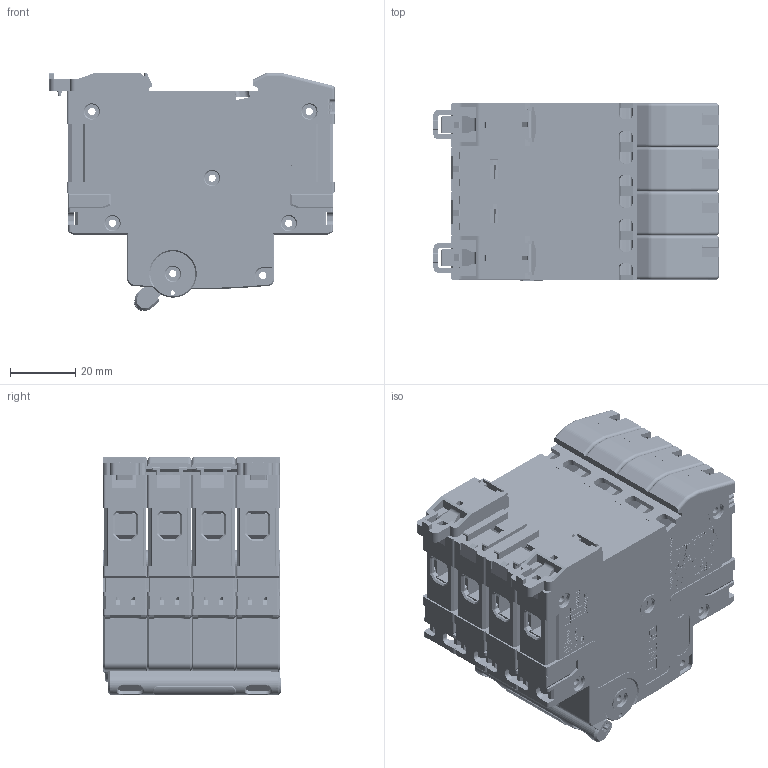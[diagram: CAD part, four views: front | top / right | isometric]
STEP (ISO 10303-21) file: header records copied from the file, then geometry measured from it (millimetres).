
FILE_DESCRIPTION((''),'2;1');
FILE_NAME('NB8-40J_4P2023070001_ASM','2023-07-19T15:50:39',('huchaow'),(''),'CREO PARAMETRIC BY PTC INC, 2020044','CREO PARAMETRIC BY PTC INC, 2020044','');
FILE_SCHEMA(('CONFIG_CONTROL_DESIGN','SHAPE_APPEARANCE_LAYERS_GROUPS'));
Products named in the file (1): NB8-40J_4P2023070001_ASM
Bounding box: 87.3 x 54.3 x 72.91 mm (x, y, z)
Surface area: 145678.7 mm2 (no closed solid volume)
Topology: 0 solids, 59 shells, 17257 faces, 47810 edges, 31560 vertices
Faces by surface type: plane 12478, cylinder 2448, extrusion 1620, cone 585, bspline 78, torus 44, sphere 4
Entity records: 753108 total; most frequent: CARTESIAN_POINT 123748, ORIENTED_EDGE 95612, DIRECTION 82156, EDGE_CURVE 47806, VECTOR 39108, LINE 37488, VERTEX_POINT 31568, FILL_AREA_STYLE_COLOUR 30762
